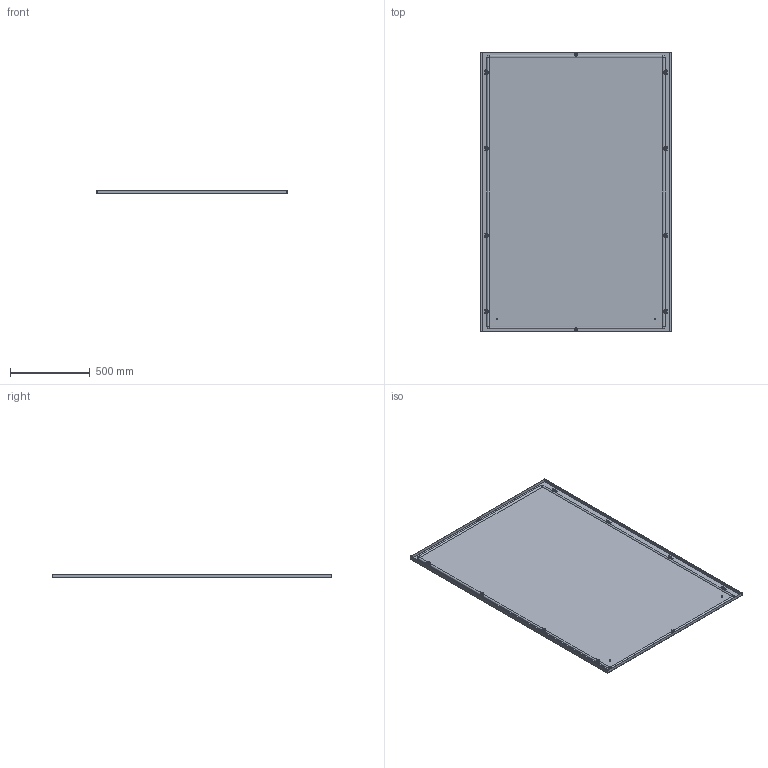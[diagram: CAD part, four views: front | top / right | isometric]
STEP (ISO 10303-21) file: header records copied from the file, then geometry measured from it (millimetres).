
FILE_DESCRIPTION(('Open CASCADE Model'),'2;1');
FILE_NAME('Open CASCADE Shape Model','2025-02-07T16:30:56',('Author'),( 'Open CASCADE'),'Open CASCADE STEP processor 7.8','Open CASCADE 7.8' ,'Unknown');
FILE_SCHEMA(('AUTOMOTIVE_DESIGN { 1 0 10303 214 1 1 1 1 }'));
Length unit declared in the file: millimetre
Products named in the file (10): Compound1; Compound2; Compound3; Solid1; Solid2; Solid3; Solid4; Solid5; Solid6; Solid7
Assembly tree (46 placements, depth 4):
  Compound1
    Compound2
      Compound3
        Solid1
        Solid2  x4
      Solid3
    Solid4  x10
    Solid5  x8
    Solid6  x10
    Solid7  x10
Bounding box: 1194 x 1755 x 23.8 mm (x, y, z)
Volume: 3882690 mm3; surface area: 4745437.7 mm2
Topology: 44 solids, 44 shells, 1897 faces, 4610 edges, 2804 vertices
Faces by surface type: plane 1157, cone 384, cylinder 312, torus 31, bspline 10, revolution 3
Full cylindrical faces by diameter (mm): 5 x20, 6 x164, 7.5 x4, 8 x20, 10 x10, 11.57 x10
Entity records: 7947 total; most frequent: CARTESIAN_POINT 1533, DIRECTION 1286, ORIENTED_EDGE 1256, EDGE_CURVE 628, AXIS2_PLACEMENT_3D 437, LINE 409, VECTOR 409, VERTEX_POINT 391
